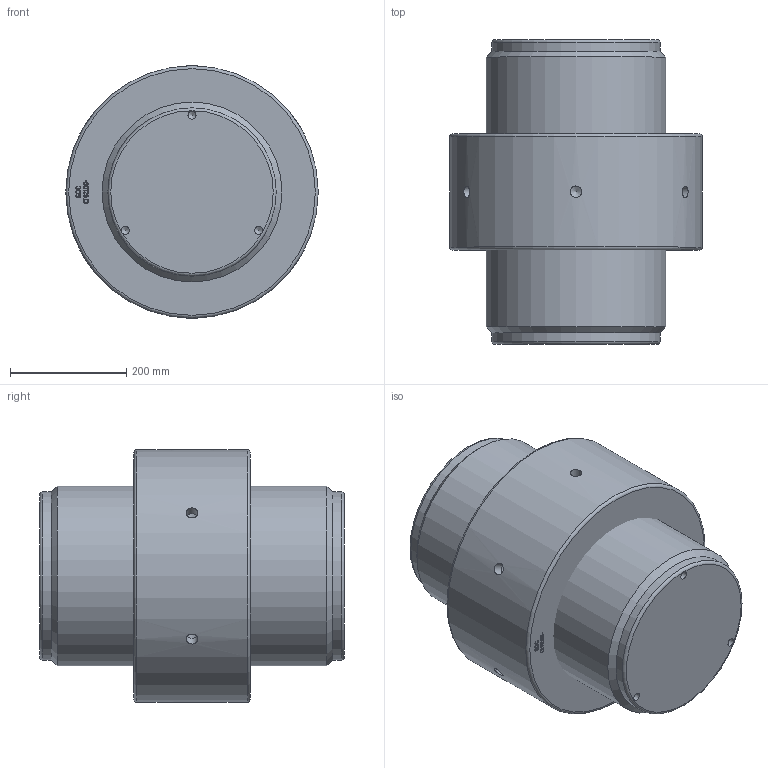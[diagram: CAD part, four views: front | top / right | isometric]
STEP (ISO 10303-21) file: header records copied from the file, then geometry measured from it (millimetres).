
FILE_DESCRIPTION(/* description */ (''),/* implementation_level */ '2;1');
FILE_NAME(/* name */ 'F:\Clienti LS\Redaelli\CYT\CYT\ARRNGEMENT\CYT100 61 061 0.stp',/* time_stamp */ '2021-05-09T08:53:23+02:00',/* author */ ('ranca'),/* organization */ (''),/* preprocessor_version */ 'ST-DEVELOPER v16.13',/* originating_system */ 'Autodesk Inventor 2018',/* authorisation */ '');
FILE_SCHEMA (('AUTOMOTIVE_DESIGN { 1 0 10303 214 3 1 1 }'));
Length unit declared in the file: millimetre
Products named in the file (3): CYT012-61-061-0; CYT012-61-061-0_1; CYT012-61-061-0_DADO
Assembly tree (2 placements, depth 2):
  CYT012-61-061-0
    CYT012-61-061-0_1
    CYT012-61-061-0_DADO
Bounding box: 435 x 525 x 435 mm (x, y, z)
Volume: 54322596.7 mm3; surface area: 1267937.8 mm2
Topology: 2 solids, 2 shells, 326 faces, 884 edges, 588 vertices
Faces by surface type: bspline 174, plane 123, cylinder 14, cone 11, torus 4
Full cylindrical faces by diameter (mm): 13.835 x3, 20 x6, 290 x2, 303.505 x1, 310 x1, 435 x1
Entity records: 11110 total; most frequent: CARTESIAN_POINT 4214, ORIENTED_EDGE 1678, EDGE_CURVE 839, DIRECTION 819, VERTEX_POINT 572, LINE 453, VECTOR 453, EDGE_LOOP 383
